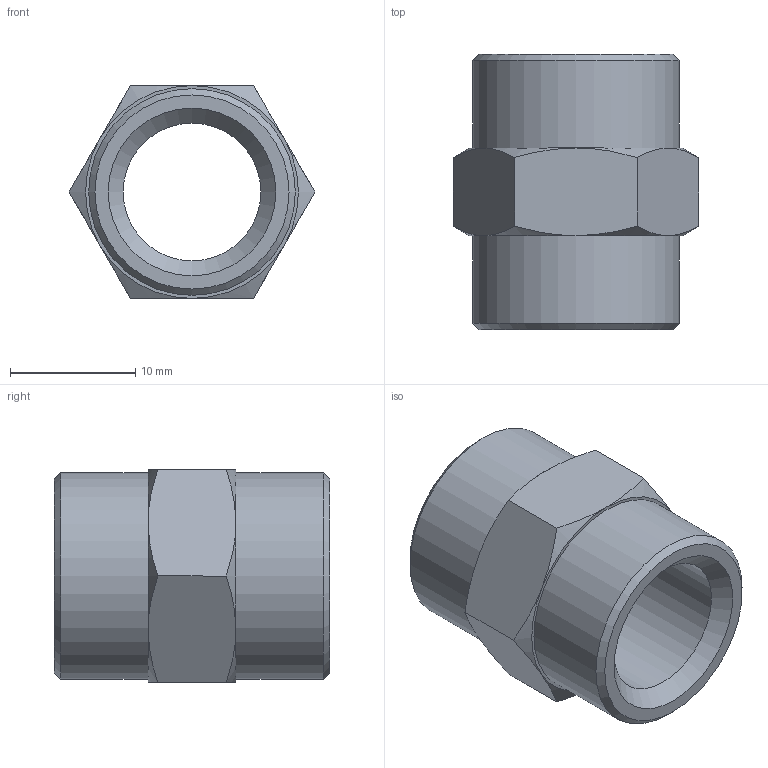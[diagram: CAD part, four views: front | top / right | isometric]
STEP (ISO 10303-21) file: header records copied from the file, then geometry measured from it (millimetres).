
FILE_DESCRIPTION (( 'STEP AP214' ), '1' );
FILE_NAME ('0300000010300A.STEP', '2013-08-08T06:51:09', ( 'ST01' ), ( '' ), 'SwSTEP 2.0', 'SolidWorks 2012', '' );
FILE_SCHEMA (( 'AUTOMOTIVE_DESIGN' ));
Length unit declared in the file: millimetre
Products named in the file (1): 0300000010300A
Bounding box: 19.63 x 22 x 17 mm (x, y, z)
Volume: 2791.9 mm3; surface area: 2161.2 mm2
Topology: 1 solids, 1 shells, 29 faces, 62 edges, 37 vertices
Faces by surface type: cone 16, plane 10, cylinder 3
Full cylindrical faces by diameter (mm): 11 x1, 16.5 x2
Entity records: 822 total; most frequent: CARTESIAN_POINT 236, DIRECTION 110, ORIENTED_EDGE 104, AXIS2_PLACEMENT_3D 52, EDGE_CURVE 52, EDGE_LOOP 40, VERTEX_POINT 34, FACE_OUTER_BOUND 32
